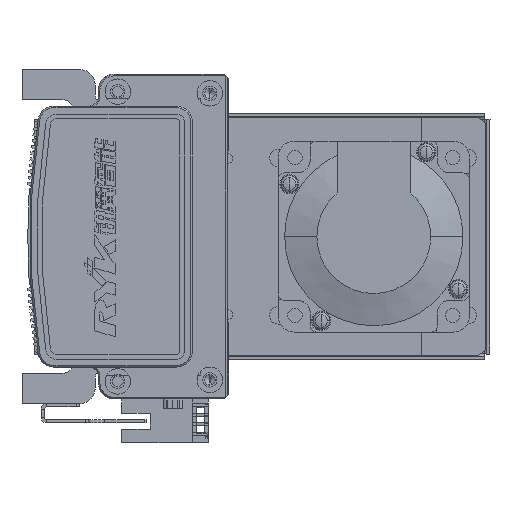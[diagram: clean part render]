
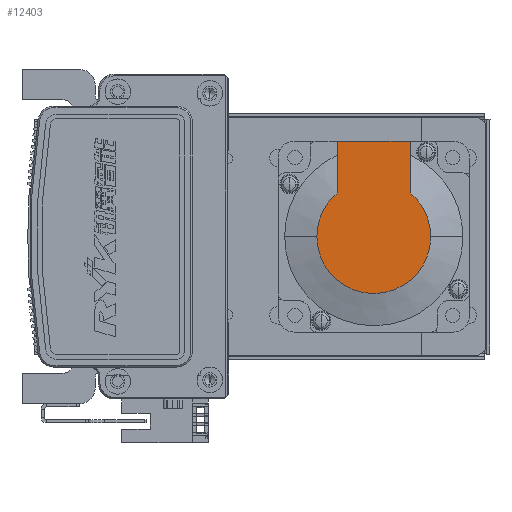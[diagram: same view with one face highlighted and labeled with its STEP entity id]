
A CAD part, left-side view. The second image highlights one B-rep face of the part: STEP entity #12403.
In plain terms, the highlighted planar face has unit normal (-1, 0, 0).
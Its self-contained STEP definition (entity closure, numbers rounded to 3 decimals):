
#460 = PLANE ( 'NONE',  #47828 ) ;
#476 = CARTESIAN_POINT ( 'NONE',  ( -99., -8.941, 0. ) ) ;
#498 = DIRECTION ( 'NONE',  ( -1., 0., 0. ) ) ;
#502 = DIRECTION ( 'NONE',  ( 0., 0., 1. ) ) ;
#2192 = EDGE_CURVE ( 'NONE', #19358, #19332, #72464, .T. ) ;
#2453 = EDGE_CURVE ( 'NONE', #19297, #74266, #80899, .T. ) ;
#2571 = EDGE_CURVE ( 'NONE', #19358, #19297, #80984, .T. ) ;
#2628 = EDGE_CURVE ( 'NONE', #19332, #74292, #81036, .T. ) ;
#11625 = CARTESIAN_POINT ( 'NONE',  ( -99., 13.735, -11.45 ) ) ;
#11687 = CARTESIAN_POINT ( 'NONE',  ( -99., 30., 11.45 ) ) ;
#11690 = CARTESIAN_POINT ( 'NONE',  ( -99., 30., -11.45 ) ) ;
#12403 = ADVANCED_FACE ( 'NONE', ( #81377 ), #460, .T. ) ;
#19297 = VERTEX_POINT ( 'NONE', #11625 ) ;
#19332 = VERTEX_POINT ( 'NONE', #11687 ) ;
#19358 = VERTEX_POINT ( 'NONE', #11690 ) ;
#20942 = ORIENTED_EDGE ( 'NONE', *, *, #2628, .F. ) ;
#20950 = ORIENTED_EDGE ( 'NONE', *, *, #35437, .T. ) ;
#20958 = ORIENTED_EDGE ( 'NONE', *, *, #2453, .T. ) ;
#20962 = ORIENTED_EDGE ( 'NONE', *, *, #2192, .F. ) ;
#20965 = ORIENTED_EDGE ( 'NONE', *, *, #35510, .T. ) ;
#20986 = ORIENTED_EDGE ( 'NONE', *, *, #2571, .T. ) ;
#35437 = EDGE_CURVE ( 'NONE', #74184, #74292, #49468, .T. ) ;
#35510 = EDGE_CURVE ( 'NONE', #74266, #74184, #49658, .T. ) ;
#39032 = AXIS2_PLACEMENT_3D ( 'NONE', #51930, #51936, #51911 ) ;
#39073 = AXIS2_PLACEMENT_3D ( 'NONE', #52142, #52144, #52115 ) ;
#47680 = AXIS2_PLACEMENT_3D ( 'NONE', #80148, #80179, #80163 ) ;
#47828 = AXIS2_PLACEMENT_3D ( 'NONE', #476, #498, #502 ) ;
#49468 = CIRCLE ( 'NONE', #39032, 17.881 ) ;
#49658 = CIRCLE ( 'NONE', #39073, 17.881 ) ;
#51911 = DIRECTION ( 'NONE',  ( 0., 0., -1. ) ) ;
#51930 = CARTESIAN_POINT ( 'NONE',  ( -99., 0., 0. ) ) ;
#51936 = DIRECTION ( 'NONE',  ( -1., 0., 0. ) ) ;
#52115 = DIRECTION ( 'NONE',  ( 0., 0., -1. ) ) ;
#52142 = CARTESIAN_POINT ( 'NONE',  ( -99., 0., 0. ) ) ;
#52144 = DIRECTION ( 'NONE',  ( -1., 0., 0. ) ) ;
#53331 = EDGE_LOOP ( 'NONE', ( #20986, #20958, #20965, #20950, #20942, #20962 ) ) ;
#72464 = LINE ( 'NONE', #78910, #72476 ) ;
#72476 = VECTOR ( 'NONE', #79079, 1000. ) ;
#74184 = VERTEX_POINT ( 'NONE', #78239 ) ;
#74266 = VERTEX_POINT ( 'NONE', #78266 ) ;
#74292 = VERTEX_POINT ( 'NONE', #78267 ) ;
#78239 = CARTESIAN_POINT ( 'NONE',  ( -99., 0., 17.881 ) ) ;
#78266 = CARTESIAN_POINT ( 'NONE',  ( -99., 0., -17.881 ) ) ;
#78267 = CARTESIAN_POINT ( 'NONE',  ( -99., 13.735, 11.45 ) ) ;
#78910 = CARTESIAN_POINT ( 'NONE',  ( -99., 30., 25. ) ) ;
#79079 = DIRECTION ( 'NONE',  ( 0., 0., 1. ) ) ;
#80148 = CARTESIAN_POINT ( 'NONE',  ( -99., 0., 0. ) ) ;
#80163 = DIRECTION ( 'NONE',  ( 0., 0., -1. ) ) ;
#80179 = DIRECTION ( 'NONE',  ( -1., 0., 0. ) ) ;
#80278 = CARTESIAN_POINT ( 'NONE',  ( -99., -8.941, -11.45 ) ) ;
#80288 = DIRECTION ( 'NONE',  ( 0., -1., 0. ) ) ;
#80356 = DIRECTION ( 'NONE',  ( 0., -1., 0. ) ) ;
#80369 = CARTESIAN_POINT ( 'NONE',  ( -99., 0., 11.45 ) ) ;
#80899 = CIRCLE ( 'NONE', #47680, 17.881 ) ;
#80961 = VECTOR ( 'NONE', #80288, 1000. ) ;
#80984 = LINE ( 'NONE', #80278, #80961 ) ;
#81029 = VECTOR ( 'NONE', #80356, 1000. ) ;
#81036 = LINE ( 'NONE', #80369, #81029 ) ;
#81377 = FACE_OUTER_BOUND ( 'NONE', #53331, .T. ) ;
